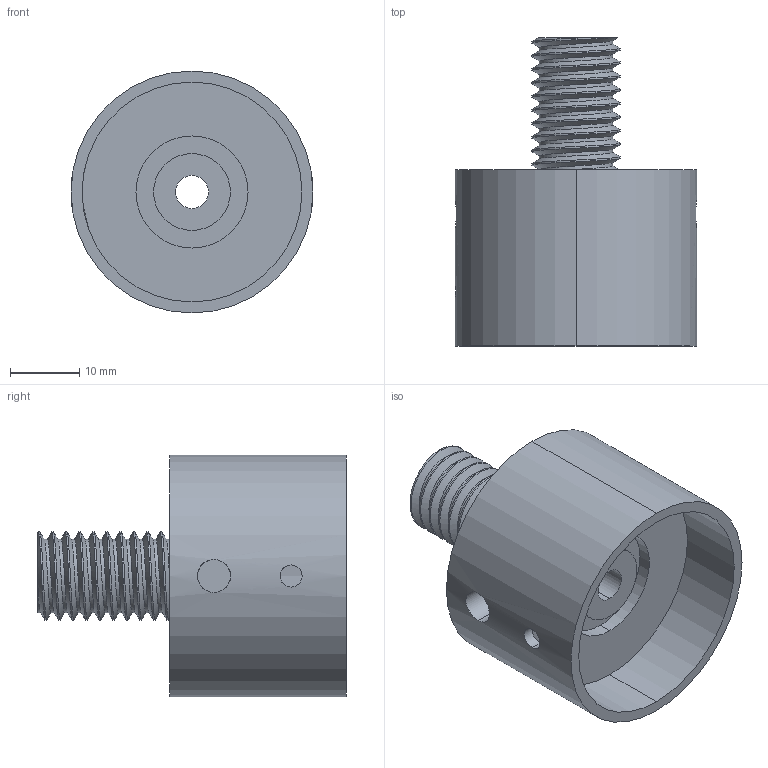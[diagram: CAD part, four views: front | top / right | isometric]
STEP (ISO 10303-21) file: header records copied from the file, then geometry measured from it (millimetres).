
FILE_DESCRIPTION (( 'STEP AP203' ), '1' );
FILE_NAME ('Gas Seal Holder.STEP', '2020-02-22T02:36:18', ( '' ), ( '' ), 'SwSTEP 2.0', 'SolidWorks 2017', '' );
FILE_SCHEMA (( 'CONFIG_CONTROL_DESIGN' ));
Length unit declared in the file: inch
Products named in the file (1): Gas Seal Holder
Bounding box: 34.87 x 44.45 x 34.87 mm (x, y, z)
Volume: 17432.7 mm3; surface area: 7841.7 mm2
Topology: 1 solids, 1 shells, 50 faces, 125 edges, 82 vertices
Faces by surface type: cylinder 37, plane 9, bspline 4
Entity records: 4569 total; most frequent: CARTESIAN_POINT 3442, ORIENTED_EDGE 250, DIRECTION 186, EDGE_CURVE 125, VERTEX_POINT 82, AXIS2_PLACEMENT_3D 75, EDGE_LOOP 59, FACE_OUTER_BOUND 50
